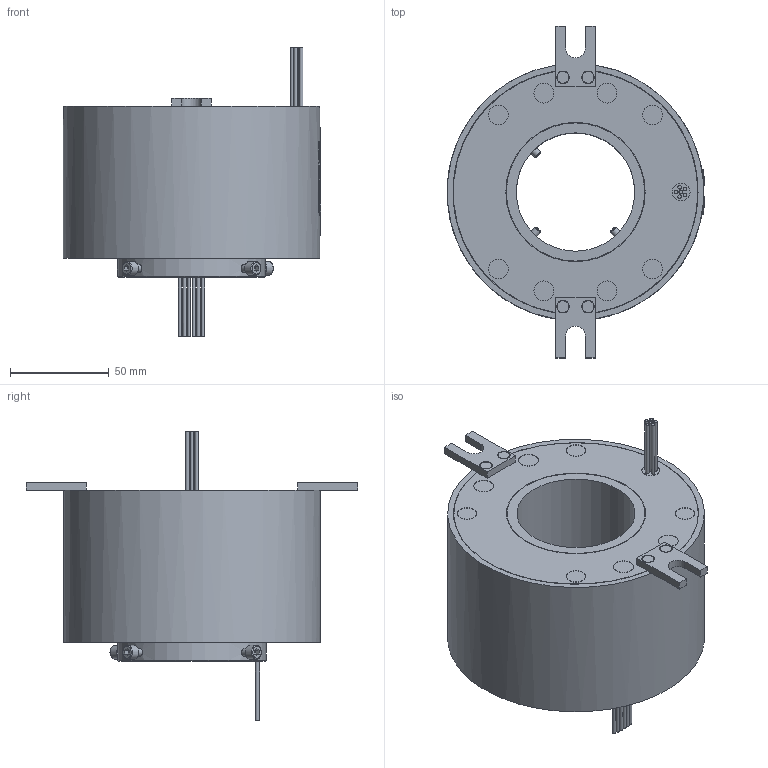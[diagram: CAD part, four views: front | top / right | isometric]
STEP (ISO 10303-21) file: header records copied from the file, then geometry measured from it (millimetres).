
FILE_DESCRIPTION(/* description */ (''),/* implementation_level */ '2;1');
FILE_NAME(/* name */ 'HDF60130-0610-3D模型.stp',/* time_stamp */ '2025-09-12T08:26:15+08:00',/* author */ (''),/* organization */ (''),/* preprocessor_version */ 'ST-DEVELOPER v16.7',/* originating_system */ 'SIEMENS PLM Software NX 12.0',/* authorisation */ '');
FILE_SCHEMA (('AUTOMOTIVE_DESIGN { 1 0 10303 214 3 1 1 1 }'));
Length unit declared in the file: millimetre
Products named in the file (1): Admi2290F644g8ag
Bounding box: 130.42 x 168 x 146.3 mm (x, y, z)
Volume: 825698.6 mm3; surface area: 78143.2 mm2
Topology: 1 solids, 5 shells, 759 faces, 1992 edges, 1326 vertices
Faces by surface type: plane 326, extrusion 313, cylinder 73, bspline 30, cone 13, torus 4
Full cylindrical faces by diameter (mm): 1.8 x12, 3 x4, 3.4 x1, 3.5 x4, 4 x7, 6 x4, 7 x4, 9 x1, 10 x8, 59.9 x1, 70 x1, 70.5 x1, 75 x1, 123.8 x2, 124 x2, 130 x1
Entity records: 28968 total; most frequent: CARTESIAN_POINT 13093, ORIENTED_EDGE 3782, DIRECTION 1997, EDGE_CURVE 1891, B_SPLINE_CURVE_WITH_KNOTS 1645, VERTEX_POINT 1296, EDGE_LOOP 927, ADVANCED_FACE 759
